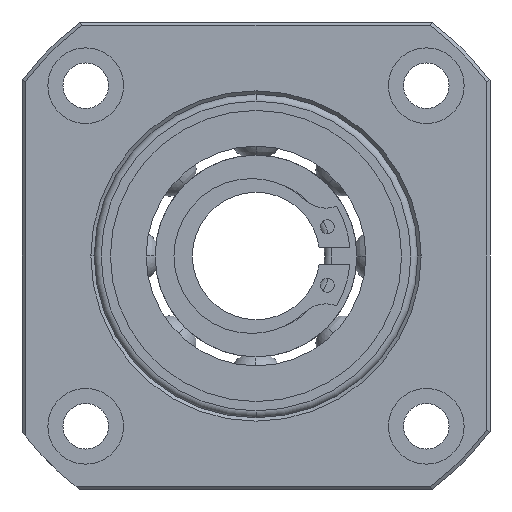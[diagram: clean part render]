
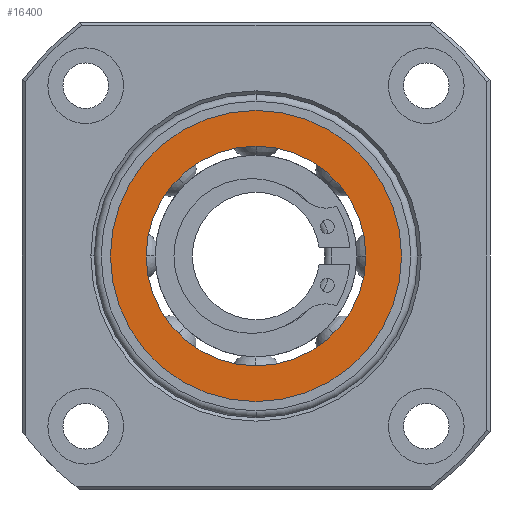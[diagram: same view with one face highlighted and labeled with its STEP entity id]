
A CAD part, left-side view. The second image highlights one B-rep face of the part: STEP entity #16400.
In plain terms, the highlighted planar face has unit normal (-1, 0, 0).
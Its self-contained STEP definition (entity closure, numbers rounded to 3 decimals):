
#505 = CARTESIAN_POINT ( 'NONE',  ( -42.609, 12.886, 0. ) ) ;
#1288 = DIRECTION ( 'NONE',  ( -1., 0., 0. ) ) ;
#1708 = CARTESIAN_POINT ( 'NONE',  ( -42.609, 12.886, 0. ) ) ;
#1739 = DIRECTION ( 'NONE',  ( 0., 0., 1. ) ) ;
#2273 = VERTEX_POINT ( 'NONE', #20184 ) ;
#3199 = DIRECTION ( 'NONE',  ( 1., 0., 0. ) ) ;
#3354 = CARTESIAN_POINT ( 'NONE',  ( -42.609, 12.886, -21.15 ) ) ;
#3765 = CARTESIAN_POINT ( 'NONE',  ( -42.609, 12.886, 0. ) ) ;
#3974 = CIRCLE ( 'NONE', #9748, 15.96 ) ;
#4038 = DIRECTION ( 'NONE',  ( 0., 0., 1. ) ) ;
#4137 = EDGE_LOOP ( 'NONE', ( #15101, #14208 ) ) ;
#5032 = EDGE_CURVE ( 'NONE', #16054, #5122, #17780, .T. ) ;
#5122 = VERTEX_POINT ( 'NONE', #3354 ) ;
#5546 = AXIS2_PLACEMENT_3D ( 'NONE', #14003, #7317, #5817 ) ;
#5817 = DIRECTION ( 'NONE',  ( 0., 0., -1. ) ) ;
#6521 = CARTESIAN_POINT ( 'NONE',  ( -42.609, 12.886, -15.96 ) ) ;
#7317 = DIRECTION ( 'NONE',  ( -1., 0., 0. ) ) ;
#8039 = ORIENTED_EDGE ( 'NONE', *, *, #11043, .F. ) ;
#8577 = EDGE_LOOP ( 'NONE', ( #17217, #8039 ) ) ;
#9748 = AXIS2_PLACEMENT_3D ( 'NONE', #3765, #13449, #1739 ) ;
#10014 = FACE_BOUND ( 'NONE', #8577, .T. ) ;
#10597 = CIRCLE ( 'NONE', #13317, 21.15 ) ;
#11043 = EDGE_CURVE ( 'NONE', #13606, #2273, #16830, .T. ) ;
#11287 = CARTESIAN_POINT ( 'NONE',  ( -42.609, 33.686, 0. ) ) ;
#12237 = EDGE_CURVE ( 'NONE', #2273, #13606, #3974, .T. ) ;
#13097 = FACE_OUTER_BOUND ( 'NONE', #4137, .T. ) ;
#13317 = AXIS2_PLACEMENT_3D ( 'NONE', #1708, #1288, #19478 ) ;
#13449 = DIRECTION ( 'NONE',  ( -1., 0., 0. ) ) ;
#13606 = VERTEX_POINT ( 'NONE', #6521 ) ;
#14003 = CARTESIAN_POINT ( 'NONE',  ( -42.609, 12.886, 0. ) ) ;
#14208 = ORIENTED_EDGE ( 'NONE', *, *, #5032, .T. ) ;
#14391 = CARTESIAN_POINT ( 'NONE',  ( -42.609, 12.886, 21.15 ) ) ;
#14597 = DIRECTION ( 'NONE',  ( 0., 1., 0. ) ) ;
#14807 = AXIS2_PLACEMENT_3D ( 'NONE', #505, #18603, #4038 ) ;
#15101 = ORIENTED_EDGE ( 'NONE', *, *, #20166, .T. ) ;
#16054 = VERTEX_POINT ( 'NONE', #14391 ) ;
#16400 = ADVANCED_FACE ( 'NONE', ( #10014, #13097 ), #20877, .F. ) ;
#16830 = CIRCLE ( 'NONE', #14807, 15.96 ) ;
#17217 = ORIENTED_EDGE ( 'NONE', *, *, #12237, .F. ) ;
#17780 = CIRCLE ( 'NONE', #5546, 21.15 ) ;
#18603 = DIRECTION ( 'NONE',  ( -1., 0., 0. ) ) ;
#19373 = AXIS2_PLACEMENT_3D ( 'NONE', #11287, #3199, #14597 ) ;
#19478 = DIRECTION ( 'NONE',  ( 0., 0., -1. ) ) ;
#20166 = EDGE_CURVE ( 'NONE', #5122, #16054, #10597, .T. ) ;
#20184 = CARTESIAN_POINT ( 'NONE',  ( -42.609, 12.886, 15.96 ) ) ;
#20877 = PLANE ( 'NONE',  #19373 ) ;
